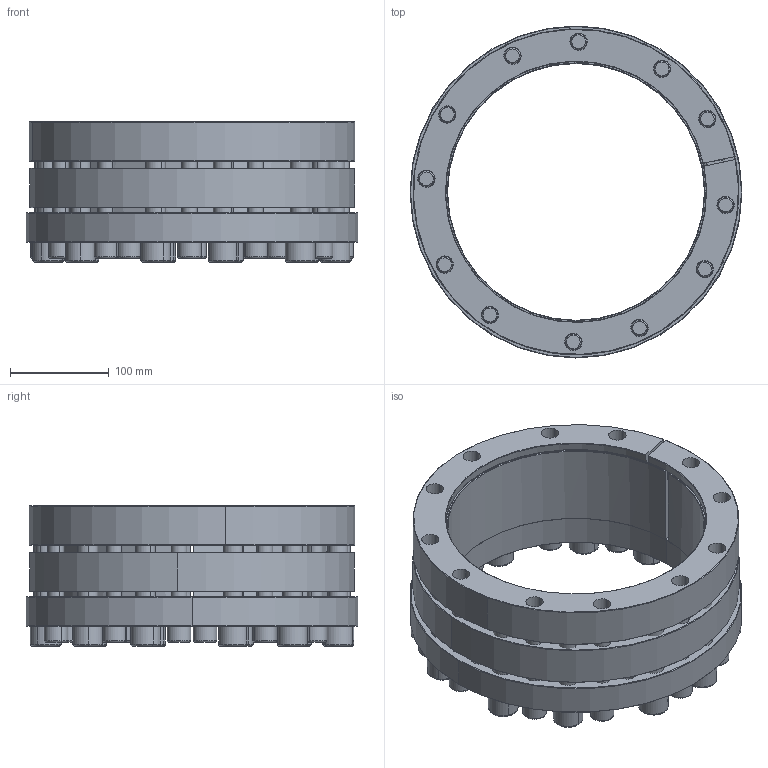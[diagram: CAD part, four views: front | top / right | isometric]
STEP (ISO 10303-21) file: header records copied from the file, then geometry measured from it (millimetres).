
FILE_DESCRIPTION (( 'STEP AP214' ), '1' );
FILE_NAME ('CONEX-P-260x330-P-007.step', '2015-11-30T21:14:10', ( '' ), ( '' ), 'SwSTEP 2.0', 'SolidWorks 2013', '' );
FILE_SCHEMA (( 'AUTOMOTIVE_DESIGN' ));
Length unit declared in the file: millimetre
Products named in the file (1): CONEX-P-260x330-P-007
Bounding box: 336 x 336 x 142 mm (x, y, z)
Volume: 3963910.4 mm3; surface area: 846865.6 mm2
Topology: 27 solids, 27 shells, 841 faces, 1940 edges, 1154 vertices
Faces by surface type: plane 381, cylinder 238, cone 124, torus 98
Entity records: 33253 total; most frequent: DIRECTION 4446, CARTESIAN_POINT 4034, ORIENTED_EDGE 3784, EDGE_CURVE 1892, AXIS2_PLACEMENT_3D 1748, VERTEX_POINT 1154, EDGE_LOOP 1022, VECTOR 950
